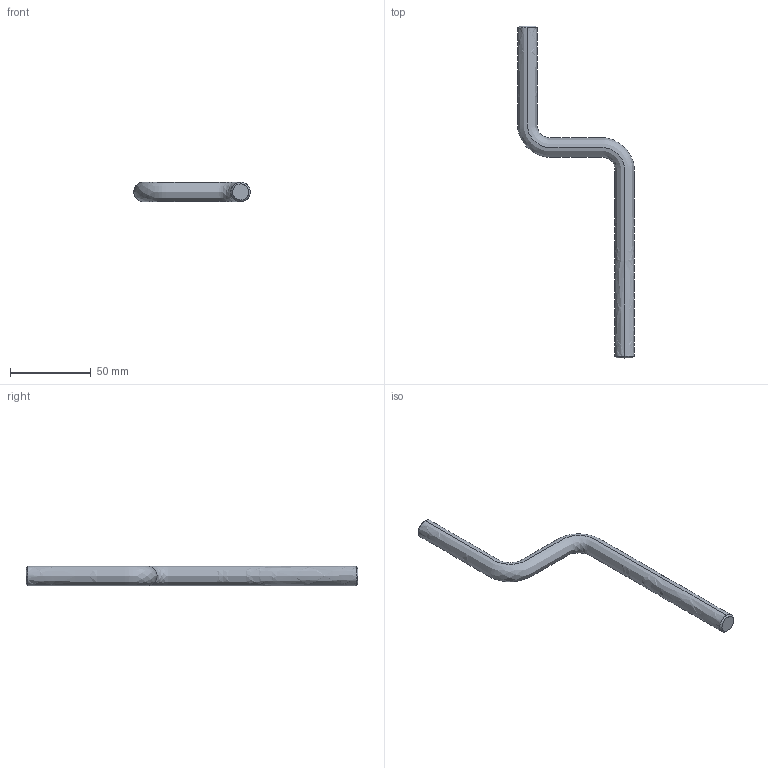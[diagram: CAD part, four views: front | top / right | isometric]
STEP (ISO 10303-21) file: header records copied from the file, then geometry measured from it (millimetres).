
FILE_DESCRIPTION (( 'STEP AP214' ), '1' );
FILE_NAME ('067RCB1BRS010.STEP', '2024-09-04T08:11:29', ( '' ), ( '' ), 'SwSTEP 2.0', 'SolidWorks 2023', '' );
FILE_SCHEMA (( 'AUTOMOTIVE_DESIGN' ));
Length unit declared in the file: millimetre
Products named in the file (1): 067RCB1BRS010
Bounding box: 72 x 205 x 12 mm (x, y, z)
Volume: 28088.9 mm3; surface area: 9716.3 mm2
Topology: 1 solids, 1 shells, 8 faces, 16 edges, 10 vertices
Faces by surface type: bspline 6, plane 2
Entity records: 3303 total; most frequent: CARTESIAN_POINT 3169, ORIENTED_EDGE 32, EDGE_CURVE 16, B_SPLINE_CURVE_WITH_KNOTS 10, VERTEX_POINT 10, ADVANCED_FACE 8, EDGE_LOOP 8, FACE_OUTER_BOUND 8
